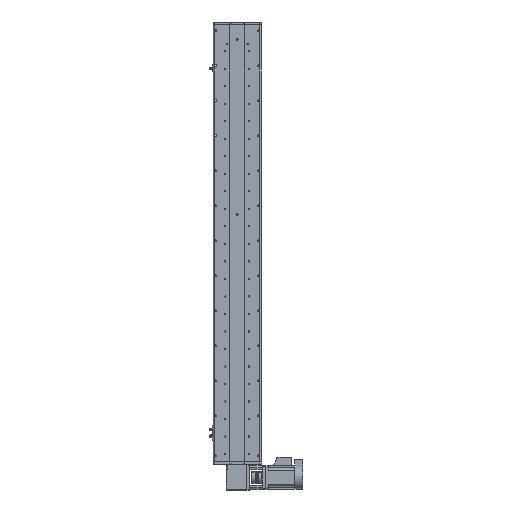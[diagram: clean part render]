
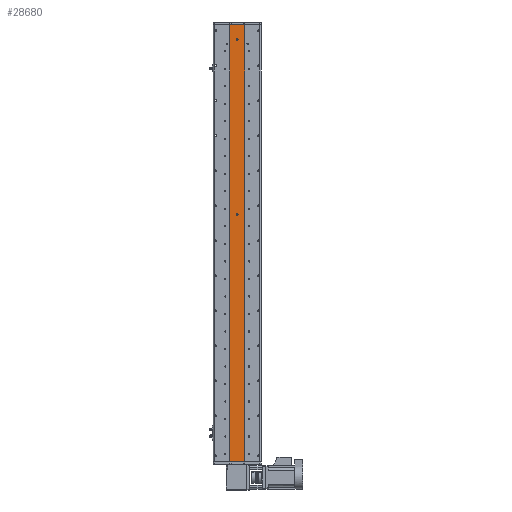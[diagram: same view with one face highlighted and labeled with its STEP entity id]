
A CAD part, front view. The second image highlights one B-rep face of the part: STEP entity #28680.
In plain terms, the highlighted planar face has unit normal (0, -1, 0).
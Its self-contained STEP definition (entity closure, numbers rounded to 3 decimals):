
#1984 = CARTESIAN_POINT ( 'NONE',  ( 25., 1., 748.5 ) ) ;
#2688 = ORIENTED_EDGE ( 'NONE', *, *, #5180, .F. ) ;
#2708 = CARTESIAN_POINT ( 'NONE',  ( 0., 1., 101.5 ) ) ;
#2945 = ORIENTED_EDGE ( 'NONE', *, *, #11312, .F. ) ;
#3446 = EDGE_CURVE ( 'NONE', #20037, #18817, #38994, .T. ) ;
#4192 = CIRCLE ( 'NONE', #29856, 3. ) ;
#4356 = DIRECTION ( 'NONE',  ( 0., 0., -1. ) ) ;
#5180 = EDGE_CURVE ( 'NONE', #23910, #11838, #46156, .T. ) ;
#7111 = VECTOR ( 'NONE', #21741, 1000. ) ;
#7593 = ORIENTED_EDGE ( 'NONE', *, *, #3446, .F. ) ;
#8357 = CARTESIAN_POINT ( 'NONE',  ( -25., 1., 748.5 ) ) ;
#8612 = DIRECTION ( 'NONE',  ( 0., -1., 0. ) ) ;
#9903 = EDGE_CURVE ( 'NONE', #31779, #19820, #32879, .T. ) ;
#10031 = VECTOR ( 'NONE', #43477, 1000. ) ;
#10265 = CARTESIAN_POINT ( 'NONE',  ( 0., 1., 698.5 ) ) ;
#10386 = AXIS2_PLACEMENT_3D ( 'NONE', #19948, #47610, #23920 ) ;
#11312 = EDGE_CURVE ( 'NONE', #11838, #23910, #37646, .T. ) ;
#11690 = AXIS2_PLACEMENT_3D ( 'NONE', #44064, #43888, #43715 ) ;
#11838 = VERTEX_POINT ( 'NONE', #37382 ) ;
#14263 = DIRECTION ( 'NONE',  ( 0., 0., -1. ) ) ;
#14999 = ORIENTED_EDGE ( 'NONE', *, *, #21406, .T. ) ;
#18636 = EDGE_LOOP ( 'NONE', ( #7593, #35668 ) ) ;
#18817 = VERTEX_POINT ( 'NONE', #2708 ) ;
#19474 = FACE_OUTER_BOUND ( 'NONE', #25946, .T. ) ;
#19820 = VERTEX_POINT ( 'NONE', #32234 ) ;
#19948 = CARTESIAN_POINT ( 'NONE',  ( 25., 1., 748.5 ) ) ;
#19956 = EDGE_LOOP ( 'NONE', ( #2688, #2945 ) ) ;
#20037 = VERTEX_POINT ( 'NONE', #21835 ) ;
#20485 = VERTEX_POINT ( 'NONE', #40968 ) ;
#21406 = EDGE_CURVE ( 'NONE', #19820, #20485, #21789, .T. ) ;
#21741 = DIRECTION ( 'NONE',  ( 0., 0., -1. ) ) ;
#21789 = LINE ( 'NONE', #39529, #10031 ) ;
#21835 = CARTESIAN_POINT ( 'NONE',  ( 0., 1., 95.5 ) ) ;
#22358 = VECTOR ( 'NONE', #4356, 1000. ) ;
#22369 = VECTOR ( 'NONE', #36413, 1000. ) ;
#23910 = VERTEX_POINT ( 'NONE', #33260 ) ;
#23920 = DIRECTION ( 'NONE',  ( 0., 0., 1. ) ) ;
#25469 = CARTESIAN_POINT ( 'NONE',  ( 25., 1., 748.5 ) ) ;
#25946 = EDGE_LOOP ( 'NONE', ( #14999, #50646, #50061, #37185 ) ) ;
#26944 = EDGE_CURVE ( 'NONE', #18817, #20037, #4192, .T. ) ;
#28163 = LINE ( 'NONE', #1984, #7111 ) ;
#28680 = ADVANCED_FACE ( 'NONE', ( #49783, #28727, #19474 ), #35674, .F. ) ;
#28727 = FACE_BOUND ( 'NONE', #19956, .T. ) ;
#29089 = CARTESIAN_POINT ( 'NONE',  ( -25., 1., 748.5 ) ) ;
#29856 = AXIS2_PLACEMENT_3D ( 'NONE', #32305, #8612, #36294 ) ;
#30056 = AXIS2_PLACEMENT_3D ( 'NONE', #10265, #37947, #14263 ) ;
#31779 = VERTEX_POINT ( 'NONE', #29089 ) ;
#32234 = CARTESIAN_POINT ( 'NONE',  ( -25., 1., -748.5 ) ) ;
#32305 = CARTESIAN_POINT ( 'NONE',  ( 0., 1., 98.5 ) ) ;
#32430 = CARTESIAN_POINT ( 'NONE',  ( 25., 1., 748.5 ) ) ;
#32879 = LINE ( 'NONE', #8357, #22358 ) ;
#33260 = CARTESIAN_POINT ( 'NONE',  ( 0., 1., 695.5 ) ) ;
#35668 = ORIENTED_EDGE ( 'NONE', *, *, #26944, .F. ) ;
#35674 = PLANE ( 'NONE',  #10386 ) ;
#36294 = DIRECTION ( 'NONE',  ( 0., 0., -1. ) ) ;
#36413 = DIRECTION ( 'NONE',  ( 1., 0., 0. ) ) ;
#37185 = ORIENTED_EDGE ( 'NONE', *, *, #9903, .T. ) ;
#37382 = CARTESIAN_POINT ( 'NONE',  ( 0., 1., 701.5 ) ) ;
#37437 = AXIS2_PLACEMENT_3D ( 'NONE', #45365, #45194, #45075 ) ;
#37646 = CIRCLE ( 'NONE', #30056, 3. ) ;
#37947 = DIRECTION ( 'NONE',  ( 0., -1., 0. ) ) ;
#38994 = CIRCLE ( 'NONE', #11690, 3. ) ;
#39529 = CARTESIAN_POINT ( 'NONE',  ( 25., 1., -748.5 ) ) ;
#40433 = EDGE_CURVE ( 'NONE', #50207, #20485, #28163, .T. ) ;
#40968 = CARTESIAN_POINT ( 'NONE',  ( 25., 1., -748.5 ) ) ;
#43380 = LINE ( 'NONE', #32430, #22369 ) ;
#43477 = DIRECTION ( 'NONE',  ( 1., 0., 0. ) ) ;
#43715 = DIRECTION ( 'NONE',  ( 0., 0., -1. ) ) ;
#43888 = DIRECTION ( 'NONE',  ( 0., -1., 0. ) ) ;
#44064 = CARTESIAN_POINT ( 'NONE',  ( 0., 1., 98.5 ) ) ;
#44821 = EDGE_CURVE ( 'NONE', #31779, #50207, #43380, .T. ) ;
#45075 = DIRECTION ( 'NONE',  ( 0., 0., -1. ) ) ;
#45194 = DIRECTION ( 'NONE',  ( 0., -1., 0. ) ) ;
#45365 = CARTESIAN_POINT ( 'NONE',  ( 0., 1., 698.5 ) ) ;
#46156 = CIRCLE ( 'NONE', #37437, 3. ) ;
#47610 = DIRECTION ( 'NONE',  ( 0., 1., 0. ) ) ;
#49783 = FACE_BOUND ( 'NONE', #18636, .T. ) ;
#50061 = ORIENTED_EDGE ( 'NONE', *, *, #44821, .F. ) ;
#50207 = VERTEX_POINT ( 'NONE', #25469 ) ;
#50646 = ORIENTED_EDGE ( 'NONE', *, *, #40433, .F. ) ;
